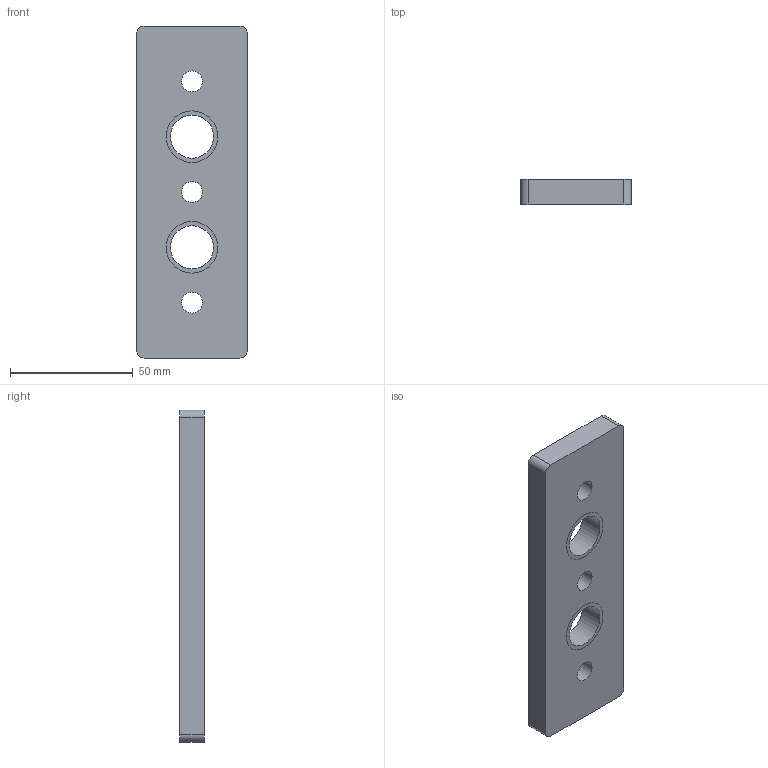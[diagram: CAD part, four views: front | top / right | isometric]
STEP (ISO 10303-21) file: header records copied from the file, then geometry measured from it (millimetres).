
FILE_DESCRIPTION((''),'2;1');
FILE_NAME('TAP045135_1','2002-12-27T',('Lipro doo'),('Lipro d.o.o.'),'PRO/ENGINEER BY PARAMETRIC TECHNOLOGY CORPORATION, 2001150','PRO/ENGINEER BY PARAMETRIC TECHNOLOGY CORPORATION, 2001150','');
FILE_SCHEMA(('CONFIG_CONTROL_DESIGN'));
Length unit declared in the file: millimetre
Products named in the file (1): TAP045135_1
Bounding box: 45 x 10 x 135 mm (x, y, z)
Volume: 53267.2 mm3; surface area: 17468.2 mm2
Topology: 1 solids, 3 shells, 30 faces, 78 edges, 50 vertices
Faces by surface type: cylinder 18, plane 6, cone 6
Entity records: 997 total; most frequent: DIRECTION 182, CARTESIAN_POINT 159, ORIENTED_EDGE 148, EDGE_CURVE 78, AXIS2_PLACEMENT_3D 73, VERTEX_POINT 50, CIRCLE 42, EDGE_LOOP 40
